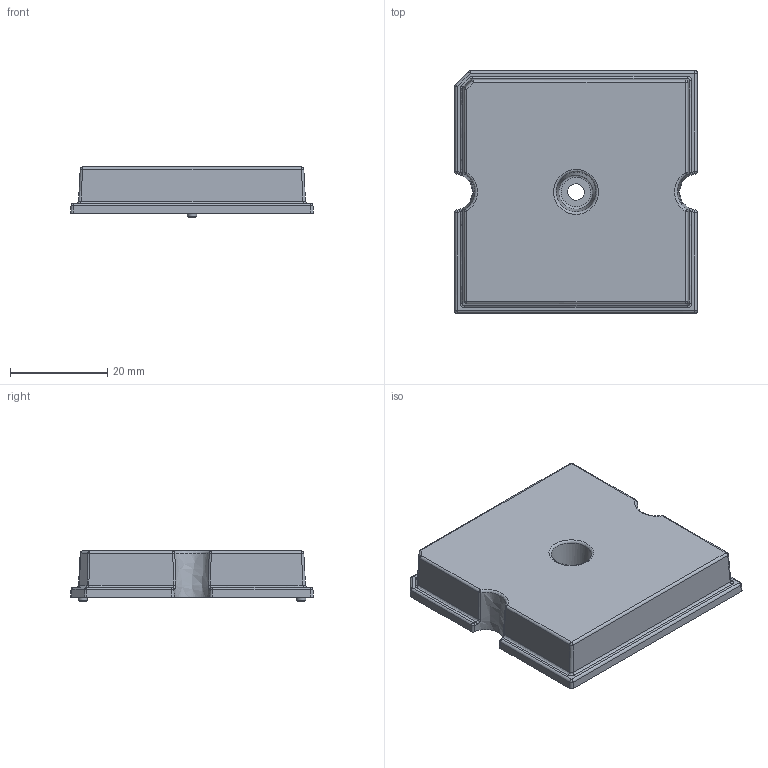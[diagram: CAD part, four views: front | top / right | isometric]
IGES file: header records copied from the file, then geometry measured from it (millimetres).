
Start section: C
Global section: file name: 023-W0E-02.igs; native system: By Siemens PLM Incorporated; preprocessor: XPlus GENERIC/IGES 23.0.61; author: Author; organization: Title; date: 20231114.172428; units: millimetre
Bounding box: 50 x 50 x 10.3 mm (x, y, z)
Volume: 14285.5 mm3; surface area: 8816.4 mm2
Topology: 1 solids, 1 shells, 389 faces, 984 edges, 599 vertices
Faces by surface type: bspline 389
